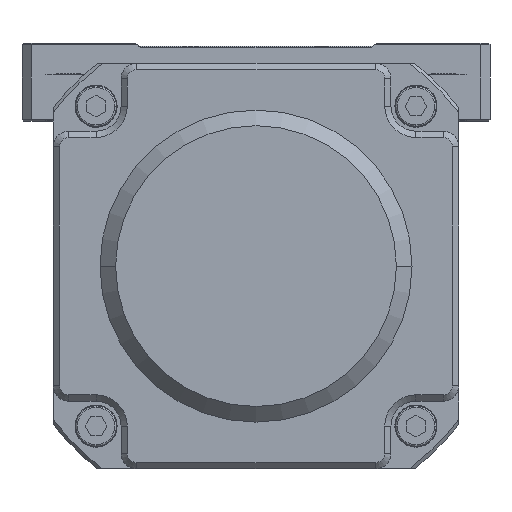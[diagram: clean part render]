
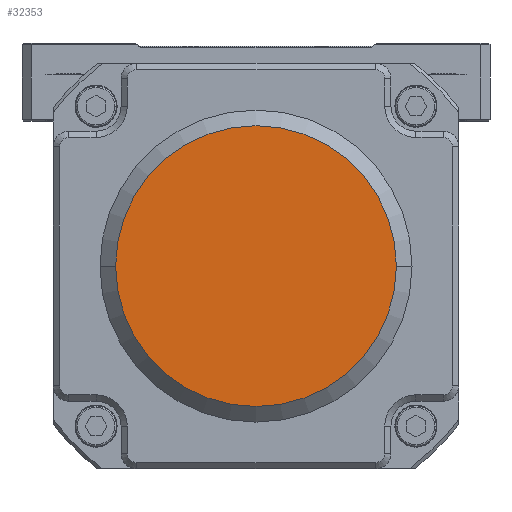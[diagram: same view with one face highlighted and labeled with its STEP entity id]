
A CAD part, front view. The second image highlights one B-rep face of the part: STEP entity #32353.
In plain terms, the highlighted planar face has unit normal (0, -1, 0) as drawn and (0, 1, 0) by its records, which use the part's own axes.
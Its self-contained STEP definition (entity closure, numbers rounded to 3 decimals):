
#30274=CARTESIAN_POINT('',(0.,166.,0.));
#30275=DIRECTION('',(0.,1.,0.));
#30276=DIRECTION('',(-1.,0.,0.));
#30277=AXIS2_PLACEMENT_3D('',#30274,#30275,#30276);
#30279=CARTESIAN_POINT('',(0.,166.,0.));
#30280=DIRECTION('',(0.,1.,0.));
#30281=DIRECTION('',(1.,0.,0.));
#30282=AXIS2_PLACEMENT_3D('',#30279,#30280,#30281);
#30899=CARTESIAN_POINT('',(-45.,166.,0.));
#30900=CARTESIAN_POINT('',(45.,166.,0.));
#30901=VERTEX_POINT('',#30899);
#30902=VERTEX_POINT('',#30900);
#32343=CARTESIAN_POINT('',(0.,166.,0.));
#32344=DIRECTION('',(0.,1.,0.));
#32345=DIRECTION('',(1.,0.,0.));
#32346=AXIS2_PLACEMENT_3D('',#32343,#32344,#32345);
#32347=PLANE('',#32346);
#32349=ORIENTED_EDGE('',*,*,#32348,.F.);
#32350=ORIENTED_EDGE('',*,*,#32333,.F.);
#32351=EDGE_LOOP('',(#32349,#32350));
#32352=FACE_OUTER_BOUND('',#32351,.F.);
#32353=ADVANCED_FACE('',(#32352),#32347,.T.);
#30278=CIRCLE('',#30277,45.);
#30283=CIRCLE('',#30282,45.);
#32333=EDGE_CURVE('',#30902,#30901,#30283,.T.);
#32348=EDGE_CURVE('',#30901,#30902,#30278,.T.);
